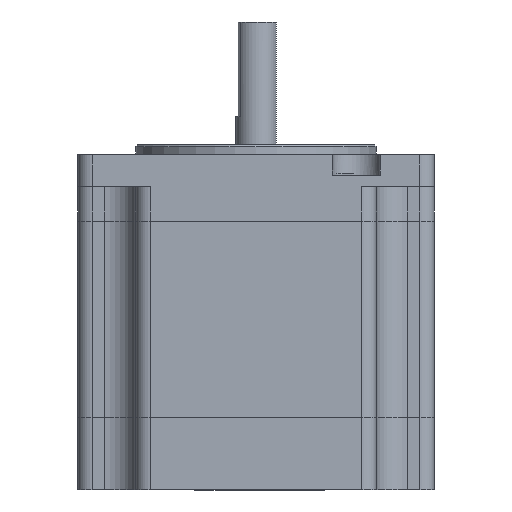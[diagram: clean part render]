
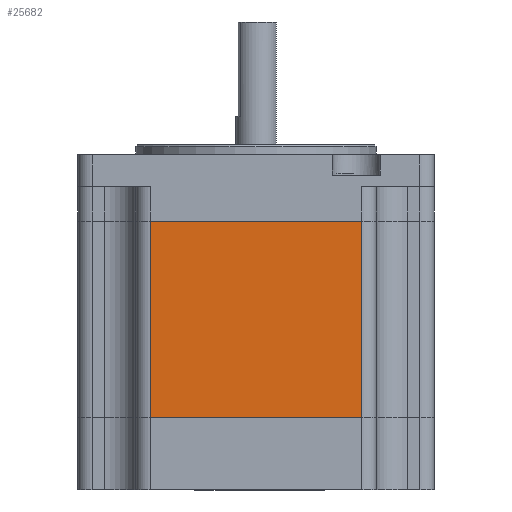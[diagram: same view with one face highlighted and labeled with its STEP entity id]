
A CAD part, front view. The second image highlights one B-rep face of the part: STEP entity #25682.
In plain terms, the highlighted planar face has unit normal (0, -1, 0).
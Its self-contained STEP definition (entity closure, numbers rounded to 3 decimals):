
#978 = LINE ( 'NONE', #19660, #7508 ) ;
#2080 = DIRECTION ( 'NONE',  ( 0., 0., -1. ) ) ;
#2390 = DIRECTION ( 'NONE',  ( 1., 0., 0. ) ) ;
#3624 = LINE ( 'NONE', #16560, #39511 ) ;
#5720 = CARTESIAN_POINT ( 'NONE',  ( -16.7, -28.2, 0. ) ) ;
#7508 = VECTOR ( 'NONE', #40479, 1000. ) ;
#8324 = CARTESIAN_POINT ( 'NONE',  ( 16.7, -28.2, 19. ) ) ;
#10264 = DIRECTION ( 'NONE',  ( 0., 0., -1. ) ) ;
#10408 = CARTESIAN_POINT ( 'NONE',  ( -19., -28.2, 0. ) ) ;
#11008 = CARTESIAN_POINT ( 'NONE',  ( 16.7, -28.2, 50. ) ) ;
#14105 = PLANE ( 'NONE',  #38962 ) ;
#14913 = CARTESIAN_POINT ( 'NONE',  ( -16.7, -28.2, 50. ) ) ;
#15385 = VERTEX_POINT ( 'NONE', #14913 ) ;
#16560 = CARTESIAN_POINT ( 'NONE',  ( -24., -28.2, 50. ) ) ;
#18294 = DIRECTION ( 'NONE',  ( 0., 0., -1. ) ) ;
#18425 = VERTEX_POINT ( 'NONE', #8324 ) ;
#18955 = ORIENTED_EDGE ( 'NONE', *, *, #43349, .T. ) ;
#19308 = EDGE_CURVE ( 'NONE', #31919, #18425, #22366, .T. ) ;
#19660 = CARTESIAN_POINT ( 'NONE',  ( -19., -28.2, 19. ) ) ;
#20108 = CARTESIAN_POINT ( 'NONE',  ( -16.7, -28.2, 19. ) ) ;
#20476 = DIRECTION ( 'NONE',  ( 0., -1., 0. ) ) ;
#20996 = EDGE_CURVE ( 'NONE', #15385, #40445, #39625, .T. ) ;
#22366 = LINE ( 'NONE', #35644, #40281 ) ;
#25682 = ADVANCED_FACE ( 'NONE', ( #38461 ), #14105, .T. ) ;
#28704 = VECTOR ( 'NONE', #2080, 1000. ) ;
#31919 = VERTEX_POINT ( 'NONE', #11008 ) ;
#35644 = CARTESIAN_POINT ( 'NONE',  ( 16.7, -28.2, 53. ) ) ;
#36250 = ORIENTED_EDGE ( 'NONE', *, *, #20996, .T. ) ;
#38461 = FACE_OUTER_BOUND ( 'NONE', #43193, .T. ) ;
#38962 = AXIS2_PLACEMENT_3D ( 'NONE', #10408, #20476, #10264 ) ;
#39511 = VECTOR ( 'NONE', #2390, 1000. ) ;
#39625 = LINE ( 'NONE', #5720, #28704 ) ;
#40281 = VECTOR ( 'NONE', #18294, 1000. ) ;
#40445 = VERTEX_POINT ( 'NONE', #20108 ) ;
#40479 = DIRECTION ( 'NONE',  ( 1., 0., 0. ) ) ;
#41895 = ORIENTED_EDGE ( 'NONE', *, *, #44494, .F. ) ;
#42837 = ORIENTED_EDGE ( 'NONE', *, *, #19308, .F. ) ;
#43193 = EDGE_LOOP ( 'NONE', ( #42837, #41895, #36250, #18955 ) ) ;
#43349 = EDGE_CURVE ( 'NONE', #40445, #18425, #978, .T. ) ;
#44494 = EDGE_CURVE ( 'NONE', #15385, #31919, #3624, .T. ) ;
